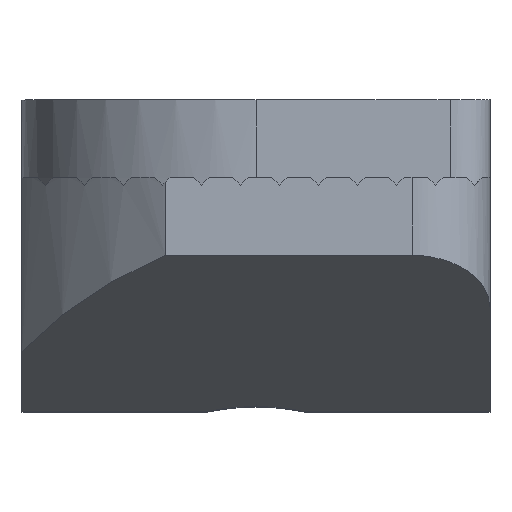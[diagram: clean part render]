
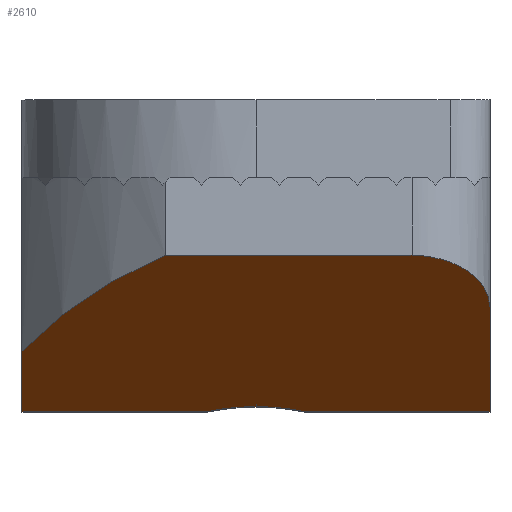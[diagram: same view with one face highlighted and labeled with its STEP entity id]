
A CAD part, top view. The second image highlights one B-rep face of the part: STEP entity #2610.
In plain terms, the highlighted planar face has unit normal (0, -0.832, 0.555).
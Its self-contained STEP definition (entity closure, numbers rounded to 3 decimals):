
#62 = LINE ( 'NONE', #631, #64 ) ;
#64 = VECTOR ( 'NONE', #1659, 1000. ) ;
#83 = EDGE_CURVE ( 'NONE', #572, #2038, #2036, .T. ) ;
#94 = CARTESIAN_POINT ( 'NONE',  ( -1.906, -1.314, 4.529 ) ) ;
#106 = VECTOR ( 'NONE', #1207, 1000. ) ;
#147 = LINE ( 'NONE', #2673, #106 ) ;
#151 = EDGE_CURVE ( 'NONE', #2733, #3084, #347, .T. ) ;
#198 = CARTESIAN_POINT ( 'NONE',  ( 0.64, -3., 2. ) ) ;
#204 = CARTESIAN_POINT ( 'NONE',  ( -1.162, -1., 5. ) ) ;
#206 = ORIENTED_EDGE ( 'NONE', *, *, #83, .F. ) ;
#239 = DIRECTION ( 'NONE',  ( 0., 0.555, 0.832 ) ) ;
#323 = CARTESIAN_POINT ( 'NONE',  ( 0.64, -3., 2. ) ) ;
#342 = ORIENTED_EDGE ( 'NONE', *, *, #899, .T. ) ;
#347 =( BOUNDED_CURVE ( )  B_SPLINE_CURVE ( 3, ( #2387, #1896, #2627, #1174 ),
 .UNSPECIFIED., .F., .F. ) 
 B_SPLINE_CURVE_WITH_KNOTS ( ( 4, 4 ),
 ( 0., 0.31 ),
 .UNSPECIFIED. ) 
 CURVE ( )  GEOMETRIC_REPRESENTATION_ITEM ( )  RATIONAL_B_SPLINE_CURVE ( ( 1., 0.992, 0.992, 1. ) ) 
 REPRESENTATION_ITEM ( '' )  );
#360 = CARTESIAN_POINT ( 'NONE',  ( -3., -2.225, 3.162 ) ) ;
#372 = VECTOR ( 'NONE', #2606, 1000. ) ;
#396 = CARTESIAN_POINT ( 'NONE',  ( -3., -1., 5. ) ) ;
#433 = CARTESIAN_POINT ( 'NONE',  ( -3., -3., 2. ) ) ;
#455 = LINE ( 'NONE', #2109, #372 ) ;
#473 =( BOUNDED_CURVE ( )  B_SPLINE_CURVE ( 3, ( #360, #2652, #94, #1926 ),
 .UNSPECIFIED., .F., .T. ) 
 B_SPLINE_CURVE_WITH_KNOTS ( ( 4, 4 ),
 ( 5.276, 5.719 ),
 .UNSPECIFIED. ) 
 CURVE ( )  GEOMETRIC_REPRESENTATION_ITEM ( )  RATIONAL_B_SPLINE_CURVE ( ( 1., 0.984, 0.984, 1. ) ) 
 REPRESENTATION_ITEM ( '' )  );
#572 = VERTEX_POINT ( 'NONE', #204 ) ;
#583 = FACE_OUTER_BOUND ( 'NONE', #1273, .T. ) ;
#600 = CARTESIAN_POINT ( 'NONE',  ( -0.64, -3., 2. ) ) ;
#618 = CARTESIAN_POINT ( 'NONE',  ( 0.218, -2.933, 2.1 ) ) ;
#631 = CARTESIAN_POINT ( 'NONE',  ( -3., -3., 2. ) ) ;
#899 = EDGE_CURVE ( 'NONE', #1423, #1774, #455, .T. ) ;
#1037 = EDGE_CURVE ( 'NONE', #2482, #572, #473, .T. ) ;
#1066 = EDGE_CURVE ( 'NONE', #2679, #3084, #147, .T. ) ;
#1086 = EDGE_CURVE ( 'NONE', #2768, #2733, #1667, .T. ) ;
#1107 = EDGE_CURVE ( 'NONE', #2768, #1423, #62, .T. ) ;
#1118 =( BOUNDED_CURVE ( )  B_SPLINE_CURVE ( 3, ( #2927, #2414, #3191, #1427 ),
 .UNSPECIFIED., .F., .T. ) 
 B_SPLINE_CURVE_WITH_KNOTS ( ( 4, 4 ),
 ( 4.712, 6.283 ),
 .UNSPECIFIED. ) 
 CURVE ( )  GEOMETRIC_REPRESENTATION_ITEM ( )  RATIONAL_B_SPLINE_CURVE ( ( 1., 0.805, 0.805, 1. ) ) 
 REPRESENTATION_ITEM ( '' )  );
#1153 = EDGE_CURVE ( 'NONE', #1774, #2038, #1118, .T. ) ;
#1174 = CARTESIAN_POINT ( 'NONE',  ( -0.64, -3., 2. ) ) ;
#1191 = PLANE ( 'NONE',  #3183 ) ;
#1197 = ORIENTED_EDGE ( 'NONE', *, *, #1066, .T. ) ;
#1207 = DIRECTION ( 'NONE',  ( 1., 0., 0. ) ) ;
#1273 = EDGE_LOOP ( 'NONE', ( #3329, #2941, #1197, #3241, #1498, #3067, #342, #1924, #206 ) ) ;
#1423 = VERTEX_POINT ( 'NONE', #2766 ) ;
#1425 = DIRECTION ( 'NONE',  ( 0., 0.555, 0.832 ) ) ;
#1427 = CARTESIAN_POINT ( 'NONE',  ( 2., -1., 5. ) ) ;
#1498 = ORIENTED_EDGE ( 'NONE', *, *, #1086, .F. ) ;
#1504 = CARTESIAN_POINT ( 'NONE',  ( -3., -2.225, 3.162 ) ) ;
#1659 = DIRECTION ( 'NONE',  ( 1., 0., 0. ) ) ;
#1667 =( BOUNDED_CURVE ( )  B_SPLINE_CURVE ( 3, ( #323, #1891, #618, #2381 ),
 .UNSPECIFIED., .F., .T. ) 
 B_SPLINE_CURVE_WITH_KNOTS ( ( 4, 4 ),
 ( 5.973, 6.283 ),
 .UNSPECIFIED. ) 
 CURVE ( )  GEOMETRIC_REPRESENTATION_ITEM ( )  RATIONAL_B_SPLINE_CURVE ( ( 1., 0.992, 0.992, 1. ) ) 
 REPRESENTATION_ITEM ( '' )  );
#1774 = VERTEX_POINT ( 'NONE', #2167 ) ;
#1891 = CARTESIAN_POINT ( 'NONE',  ( 0.433, -2.956, 2.066 ) ) ;
#1896 = CARTESIAN_POINT ( 'NONE',  ( -0.218, -2.933, 2.1 ) ) ;
#1924 = ORIENTED_EDGE ( 'NONE', *, *, #1153, .T. ) ;
#1926 = CARTESIAN_POINT ( 'NONE',  ( -1.162, -1., 5. ) ) ;
#1944 = DIRECTION ( 'NONE',  ( 1., 0., 0. ) ) ;
#1997 = VECTOR ( 'NONE', #1944, 1000. ) ;
#2036 = LINE ( 'NONE', #396, #1997 ) ;
#2038 = VERTEX_POINT ( 'NONE', #2577 ) ;
#2109 = CARTESIAN_POINT ( 'NONE',  ( 3., -1., 5. ) ) ;
#2167 = CARTESIAN_POINT ( 'NONE',  ( 3., -1.667, 4. ) ) ;
#2303 = CARTESIAN_POINT ( 'NONE',  ( -3., -1., 5. ) ) ;
#2381 = CARTESIAN_POINT ( 'NONE',  ( 0., -2.933, 2.1 ) ) ;
#2387 = CARTESIAN_POINT ( 'NONE',  ( 0., -2.933, 2.1 ) ) ;
#2410 = CARTESIAN_POINT ( 'NONE',  ( -3., -1., 5. ) ) ;
#2414 = CARTESIAN_POINT ( 'NONE',  ( 3., -1.276, 4.586 ) ) ;
#2482 = VERTEX_POINT ( 'NONE', #1504 ) ;
#2488 = CARTESIAN_POINT ( 'NONE',  ( 0., -2.933, 2.1 ) ) ;
#2577 = CARTESIAN_POINT ( 'NONE',  ( 2., -1., 5. ) ) ;
#2606 = DIRECTION ( 'NONE',  ( 0., 0.555, 0.832 ) ) ;
#2610 = ADVANCED_FACE ( 'NONE', ( #583 ), #1191, .F. ) ;
#2627 = CARTESIAN_POINT ( 'NONE',  ( -0.433, -2.956, 2.066 ) ) ;
#2652 = CARTESIAN_POINT ( 'NONE',  ( -2.529, -1.729, 3.906 ) ) ;
#2673 = CARTESIAN_POINT ( 'NONE',  ( -3., -3., 2. ) ) ;
#2679 = VERTEX_POINT ( 'NONE', #433 ) ;
#2733 = VERTEX_POINT ( 'NONE', #2488 ) ;
#2766 = CARTESIAN_POINT ( 'NONE',  ( 3., -3., 2. ) ) ;
#2768 = VERTEX_POINT ( 'NONE', #198 ) ;
#2846 = VECTOR ( 'NONE', #239, 1000. ) ;
#2896 = LINE ( 'NONE', #2303, #2846 ) ;
#2924 = DIRECTION ( 'NONE',  ( 0., 0.832, -0.555 ) ) ;
#2927 = CARTESIAN_POINT ( 'NONE',  ( 3., -1.667, 4. ) ) ;
#2937 = EDGE_CURVE ( 'NONE', #2679, #2482, #2896, .T. ) ;
#2941 = ORIENTED_EDGE ( 'NONE', *, *, #2937, .F. ) ;
#3067 = ORIENTED_EDGE ( 'NONE', *, *, #1107, .T. ) ;
#3084 = VERTEX_POINT ( 'NONE', #600 ) ;
#3183 = AXIS2_PLACEMENT_3D ( 'NONE', #2410, #2924, #1425 ) ;
#3191 = CARTESIAN_POINT ( 'NONE',  ( 2.586, -1., 5. ) ) ;
#3241 = ORIENTED_EDGE ( 'NONE', *, *, #151, .F. ) ;
#3329 = ORIENTED_EDGE ( 'NONE', *, *, #1037, .F. ) ;
